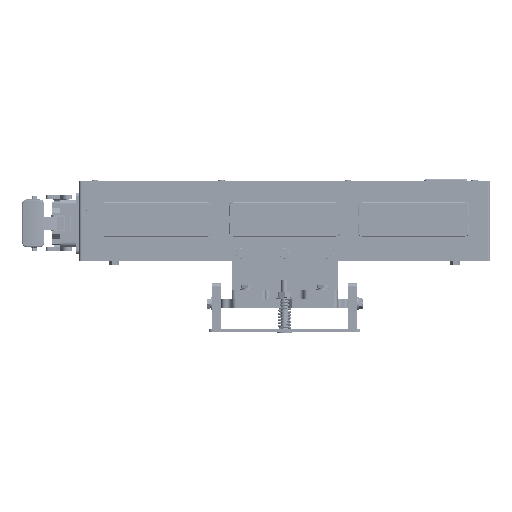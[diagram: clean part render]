
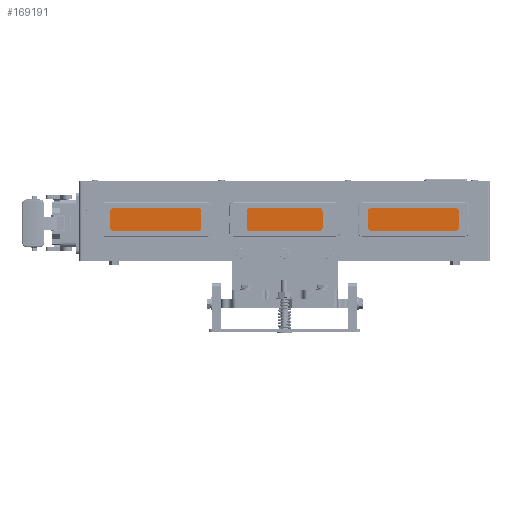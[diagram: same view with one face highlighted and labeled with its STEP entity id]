
A CAD part, front view. The second image highlights one B-rep face of the part: STEP entity #169191.
In plain terms, the highlighted planar face has unit normal (0, -1, 0).
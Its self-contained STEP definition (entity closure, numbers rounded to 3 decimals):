
#586 = DIRECTION ( 'NONE',  ( 0., -1., 0. ) ) ;
#10512 = ORIENTED_EDGE ( 'NONE', *, *, #131140, .T. ) ;
#16536 = CARTESIAN_POINT ( 'NONE',  ( -331.106, 105.849, 117.61 ) ) ;
#17542 = EDGE_CURVE ( 'NONE', #172801, #199119, #215013, .T. ) ;
#20392 = DIRECTION ( 'NONE',  ( -1., 0., 0. ) ) ;
#20723 = LINE ( 'NONE', #230351, #179619 ) ;
#20860 = VECTOR ( 'NONE', #204025, 1000. ) ;
#20970 = CARTESIAN_POINT ( 'NONE',  ( -128.106, 105.849, 123.61 ) ) ;
#22226 = ORIENTED_EDGE ( 'NONE', *, *, #17542, .F. ) ;
#23252 = FACE_BOUND ( 'NONE', #115115, .T. ) ;
#23614 = DIRECTION ( 'NONE',  ( -1., 0., 0. ) ) ;
#27640 = CARTESIAN_POINT ( 'NONE',  ( 198.894, 105.849, 209.61 ) ) ;
#29838 = CARTESIAN_POINT ( 'NONE',  ( -61.606, 105.849, 123.61 ) ) ;
#32609 = CIRCLE ( 'NONE', #184365, 4.5 ) ;
#39003 = DIRECTION ( 'NONE',  ( -1., 0., 0. ) ) ;
#46396 = EDGE_LOOP ( 'NONE', ( #10512, #76702 ) ) ;
#47383 = DIRECTION ( 'NONE',  ( 0., 1., 0. ) ) ;
#47743 = ORIENTED_EDGE ( 'NONE', *, *, #71722, .F. ) ;
#50620 = DIRECTION ( 'NONE',  ( 0., 1., 0. ) ) ;
#51760 = VERTEX_POINT ( 'NONE', #239356 ) ;
#52171 = VERTEX_POINT ( 'NONE', #247333 ) ;
#52383 = AXIS2_PLACEMENT_3D ( 'NONE', #174500, #147404, #120351 ) ;
#54567 = PLANE ( 'NONE',  #118464 ) ;
#54836 = VERTEX_POINT ( 'NONE', #60436 ) ;
#60436 = CARTESIAN_POINT ( 'NONE',  ( 198.894, 105.849, 117.61 ) ) ;
#60599 = VERTEX_POINT ( 'NONE', #216283 ) ;
#66023 = DIRECTION ( 'NONE',  ( 0., -1., 0. ) ) ;
#71722 = EDGE_CURVE ( 'NONE', #199119, #172801, #32609, .T. ) ;
#76702 = ORIENTED_EDGE ( 'NONE', *, *, #129229, .T. ) ;
#76837 = DIRECTION ( 'NONE',  ( -1., 0., 0. ) ) ;
#77632 = CARTESIAN_POINT ( 'NONE',  ( -123.606, 105.849, 123.61 ) ) ;
#87719 = EDGE_CURVE ( 'NONE', #54836, #60599, #210245, .T. ) ;
#100707 = VERTEX_POINT ( 'NONE', #129966 ) ;
#103954 = CARTESIAN_POINT ( 'NONE',  ( 198.894, 105.849, 117.61 ) ) ;
#108964 = CARTESIAN_POINT ( 'NONE',  ( -70.606, 105.849, 123.61 ) ) ;
#115043 = EDGE_CURVE ( 'NONE', #135789, #52171, #258188, .T. ) ;
#115112 = VERTEX_POINT ( 'NONE', #164470 ) ;
#115115 = EDGE_LOOP ( 'NONE', ( #245285, #116237 ) ) ;
#116237 = ORIENTED_EDGE ( 'NONE', *, *, #143142, .T. ) ;
#118464 = AXIS2_PLACEMENT_3D ( 'NONE', #27640, #586, #237279 ) ;
#119998 = CARTESIAN_POINT ( 'NONE',  ( -66.106, 105.849, 123.61 ) ) ;
#120351 = DIRECTION ( 'NONE',  ( -1., 0., 0. ) ) ;
#129229 = EDGE_CURVE ( 'NONE', #223892, #51760, #219515, .T. ) ;
#129515 = CIRCLE ( 'NONE', #247481, 4.5 ) ;
#129966 = CARTESIAN_POINT ( 'NONE',  ( -13.106, 105.849, 123.61 ) ) ;
#130789 = LINE ( 'NONE', #103954, #191282 ) ;
#131140 = EDGE_CURVE ( 'NONE', #51760, #223892, #183024, .T. ) ;
#132043 = FACE_BOUND ( 'NONE', #201401, .T. ) ;
#135789 = VERTEX_POINT ( 'NONE', #16536 ) ;
#143142 = EDGE_CURVE ( 'NONE', #100707, #115112, #129515, .T. ) ;
#143527 = ORIENTED_EDGE ( 'NONE', *, *, #263169, .F. ) ;
#143768 = AXIS2_PLACEMENT_3D ( 'NONE', #77632, #50620, #23614 ) ;
#143820 = EDGE_CURVE ( 'NONE', #60599, #52171, #20723, .T. ) ;
#145672 = FACE_OUTER_BOUND ( 'NONE', #240427, .T. ) ;
#147404 = DIRECTION ( 'NONE',  ( 0., 1., 0. ) ) ;
#152516 = FACE_BOUND ( 'NONE', #46396, .T. ) ;
#156374 = DIRECTION ( 'NONE',  ( 0., 0., 1. ) ) ;
#159235 = DIRECTION ( 'NONE',  ( -1., 0., 0. ) ) ;
#159849 = AXIS2_PLACEMENT_3D ( 'NONE', #209338, #47383, #20392 ) ;
#160117 = DIRECTION ( 'NONE',  ( -1., 0., 0. ) ) ;
#164470 = CARTESIAN_POINT ( 'NONE',  ( -4.106, 105.849, 123.61 ) ) ;
#169191 = ADVANCED_FACE ( 'NONE', ( #23252, #132043, #145672, #152516 ), #54567, .T. ) ;
#172801 = VERTEX_POINT ( 'NONE', #108964 ) ;
#174500 = CARTESIAN_POINT ( 'NONE',  ( -123.606, 105.849, 123.61 ) ) ;
#179619 = VECTOR ( 'NONE', #203303, 1000. ) ;
#183024 = CIRCLE ( 'NONE', #52383, 4.5 ) ;
#183415 = CARTESIAN_POINT ( 'NONE',  ( 198.894, 105.849, 209.61 ) ) ;
#184191 = ORIENTED_EDGE ( 'NONE', *, *, #115043, .F. ) ;
#184365 = AXIS2_PLACEMENT_3D ( 'NONE', #213941, #187076, #160117 ) ;
#186198 = DIRECTION ( 'NONE',  ( 0., 1., 0. ) ) ;
#187076 = DIRECTION ( 'NONE',  ( 0., -1., 0. ) ) ;
#188284 = VECTOR ( 'NONE', #156374, 1000. ) ;
#191282 = VECTOR ( 'NONE', #76837, 1000. ) ;
#193286 = EDGE_CURVE ( 'NONE', #115112, #100707, #222764, .T. ) ;
#194063 = AXIS2_PLACEMENT_3D ( 'NONE', #119998, #66023, #39003 ) ;
#199119 = VERTEX_POINT ( 'NONE', #29838 ) ;
#201401 = EDGE_LOOP ( 'NONE', ( #47743, #22226 ) ) ;
#202204 = ORIENTED_EDGE ( 'NONE', *, *, #143820, .T. ) ;
#203303 = DIRECTION ( 'NONE',  ( -1., 0., 0. ) ) ;
#204025 = DIRECTION ( 'NONE',  ( 0., 0., 1. ) ) ;
#209338 = CARTESIAN_POINT ( 'NONE',  ( -8.606, 105.849, 123.61 ) ) ;
#210245 = LINE ( 'NONE', #183415, #188284 ) ;
#213045 = CARTESIAN_POINT ( 'NONE',  ( -8.606, 105.849, 123.61 ) ) ;
#213941 = CARTESIAN_POINT ( 'NONE',  ( -66.106, 105.849, 123.61 ) ) ;
#215013 = CIRCLE ( 'NONE', #194063, 4.5 ) ;
#216283 = CARTESIAN_POINT ( 'NONE',  ( 198.894, 105.849, 209.61 ) ) ;
#219515 = CIRCLE ( 'NONE', #143768, 4.5 ) ;
#222764 = CIRCLE ( 'NONE', #159849, 4.5 ) ;
#223892 = VERTEX_POINT ( 'NONE', #20970 ) ;
#230351 = CARTESIAN_POINT ( 'NONE',  ( 198.894, 105.849, 209.61 ) ) ;
#231071 = CARTESIAN_POINT ( 'NONE',  ( -331.106, 105.849, 209.61 ) ) ;
#237279 = DIRECTION ( 'NONE',  ( -1., 0., 0. ) ) ;
#239356 = CARTESIAN_POINT ( 'NONE',  ( -119.106, 105.849, 123.61 ) ) ;
#240427 = EDGE_LOOP ( 'NONE', ( #184191, #143527, #258255, #202204 ) ) ;
#245285 = ORIENTED_EDGE ( 'NONE', *, *, #193286, .T. ) ;
#247333 = CARTESIAN_POINT ( 'NONE',  ( -331.106, 105.849, 209.61 ) ) ;
#247481 = AXIS2_PLACEMENT_3D ( 'NONE', #213045, #186198, #159235 ) ;
#258188 = LINE ( 'NONE', #231071, #20860 ) ;
#258255 = ORIENTED_EDGE ( 'NONE', *, *, #87719, .T. ) ;
#263169 = EDGE_CURVE ( 'NONE', #54836, #135789, #130789, .T. ) ;
